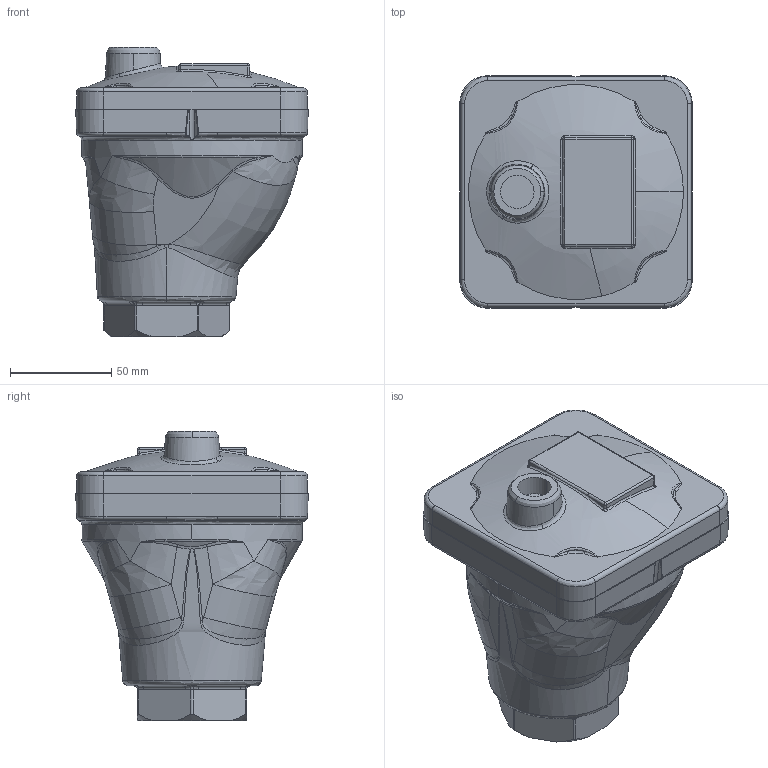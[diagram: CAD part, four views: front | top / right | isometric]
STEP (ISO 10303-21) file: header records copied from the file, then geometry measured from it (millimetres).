
FILE_DESCRIPTION( (''), '2;1');
FILE_NAME ('PC1027.10420.TA-3　32A_30074.stp','2025-07-29T11:02:53',(''),(''),'spGate 20.6.3 (****-****-****-****)','','');
FILE_SCHEMA (('AUTOMOTIVE_DESIGN'));
Length unit declared in the file: millimetre
Products named in the file (3): Assembly; TA-3　ふた; TA-3　本体　32A
Assembly tree (2 placements, depth 2):
  Assembly
    TA-3　ふた
    TA-3　本体　32A
Bounding box: 114.92 x 114.92 x 143 mm (x, y, z)
Volume: 450670 mm3; surface area: 105101.5 mm2
Topology: 2 solids, 2 shells, 354 faces, 862 edges, 505 vertices
Faces by surface type: bspline 201, cylinder 77, plane 68, sphere 8
Entity records: 35276 total; most frequent: CARTESIAN_POINT 21642, ORIENTED_EDGE 1696, COLOUR_RGB 1204, PRESENTATION_STYLE_ASSIGNMENT 1204, STYLED_ITEM 1204, DIRECTION 1097, EDGE_CURVE 848, DRAUGHTING_PRE_DEFINED_CURVE_FONT 848
